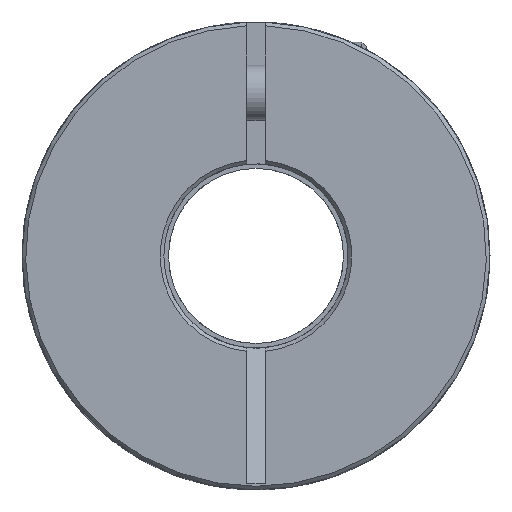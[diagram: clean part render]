
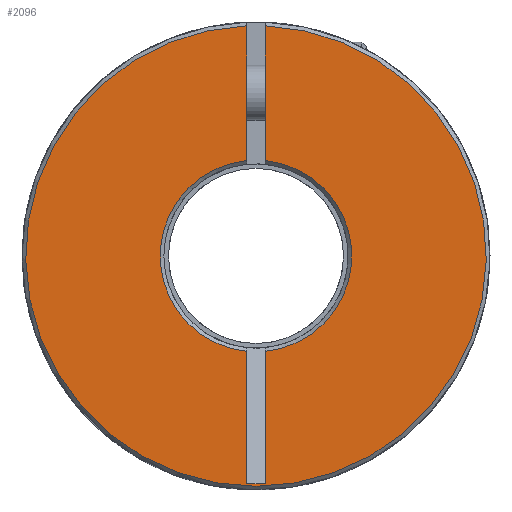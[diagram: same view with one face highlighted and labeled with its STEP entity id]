
A CAD part, front view. The second image highlights one B-rep face of the part: STEP entity #2096.
In plain terms, the highlighted planar face has unit normal (0, -1, 0).
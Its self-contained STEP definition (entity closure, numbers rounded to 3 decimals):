
#1=DIRECTION('',(0.,0.,-1.));
#2=VECTOR('',#1,7.314);
#3=CARTESIAN_POINT('',(-0.5,-15.,12.49));
#4=LINE('',#3,#2);
#5=DIRECTION('',(0.,0.,-1.));
#6=VECTOR('',#5,7.174);
#7=CARTESIAN_POINT('',(-0.5,-15.,-5.176));
#8=LINE('',#7,#6);
#9=DIRECTION('',(1.,0.,0.));
#10=VECTOR('',#9,1.);
#11=CARTESIAN_POINT('',(-0.5,-15.,-12.35));
#12=LINE('',#11,#10);
#13=DIRECTION('',(0.,0.,-1.));
#14=VECTOR('',#13,7.174);
#15=CARTESIAN_POINT('',(0.5,-15.,-5.176));
#16=LINE('',#15,#14);
#17=DIRECTION('',(0.,0.,-1.));
#18=VECTOR('',#17,7.314);
#19=CARTESIAN_POINT('',(0.5,-15.,12.49));
#20=LINE('',#19,#18);
#35=CARTESIAN_POINT('',(0.,-15.,0.));
#36=DIRECTION('',(0.,-1.,0.));
#37=DIRECTION('',(-0.04,0.,0.999));
#38=AXIS2_PLACEMENT_3D('',#35,#36,#37);
#80=CARTESIAN_POINT('',(0.,-15.,0.));
#81=DIRECTION('',(0.,1.,0.));
#82=DIRECTION('',(-0.096,0.,-0.995));
#83=AXIS2_PLACEMENT_3D('',#80,#81,#82);
#92=CARTESIAN_POINT('',(0.,-15.,0.));
#93=DIRECTION('',(0.,1.,0.));
#94=DIRECTION('',(0.096,0.,0.995));
#95=AXIS2_PLACEMENT_3D('',#92,#93,#94);
#1957=CARTESIAN_POINT('',(-0.5,-15.,12.49));
#1958=CARTESIAN_POINT('',(-0.5,-15.,5.176));
#1959=VERTEX_POINT('',#1957);
#1960=VERTEX_POINT('',#1958);
#1961=CARTESIAN_POINT('',(-0.5,-15.,-5.176));
#1962=CARTESIAN_POINT('',(-0.5,-15.,-12.35));
#1963=VERTEX_POINT('',#1961);
#1964=VERTEX_POINT('',#1962);
#1965=CARTESIAN_POINT('',(0.5,-15.,12.49));
#1966=CARTESIAN_POINT('',(0.5,-15.,5.176));
#1967=VERTEX_POINT('',#1965);
#1968=VERTEX_POINT('',#1966);
#1969=CARTESIAN_POINT('',(0.5,-15.,-5.176));
#1970=CARTESIAN_POINT('',(0.5,-15.,-12.35));
#1971=VERTEX_POINT('',#1969);
#1972=VERTEX_POINT('',#1970);
#2073=CARTESIAN_POINT('',(0.,-15.,0.));
#2074=DIRECTION('',(0.,1.,0.));
#2075=DIRECTION('',(1.,0.,0.));
#2076=AXIS2_PLACEMENT_3D('',#2073,#2074,#2075);
#2077=PLANE('',#2076);
#2079=ORIENTED_EDGE('',*,*,#2078,.T.);
#2081=ORIENTED_EDGE('',*,*,#2080,.F.);
#2083=ORIENTED_EDGE('',*,*,#2082,.T.);
#2085=ORIENTED_EDGE('',*,*,#2084,.T.);
#2087=ORIENTED_EDGE('',*,*,#2086,.F.);
#2089=ORIENTED_EDGE('',*,*,#2088,.F.);
#2091=ORIENTED_EDGE('',*,*,#2090,.F.);
#2093=ORIENTED_EDGE('',*,*,#2092,.F.);
#2094=EDGE_LOOP('',(#2079,#2081,#2083,#2085,#2087,#2089,#2091,#2093));
#2095=FACE_OUTER_BOUND('',#2094,.F.);
#2096=ADVANCED_FACE('',(#2095),#2077,.F.);
#39=CIRCLE('',#38,12.5);
#84=CIRCLE('',#83,5.2);
#96=CIRCLE('',#95,5.2);
#2078=EDGE_CURVE('',#1959,#1960,#4,.T.);
#2080=EDGE_CURVE('',#1963,#1960,#84,.T.);
#2082=EDGE_CURVE('',#1963,#1964,#8,.T.);
#2084=EDGE_CURVE('',#1964,#1972,#12,.T.);
#2086=EDGE_CURVE('',#1971,#1972,#16,.T.);
#2088=EDGE_CURVE('',#1968,#1971,#96,.T.);
#2090=EDGE_CURVE('',#1967,#1968,#20,.T.);
#2092=EDGE_CURVE('',#1959,#1967,#39,.T.);
